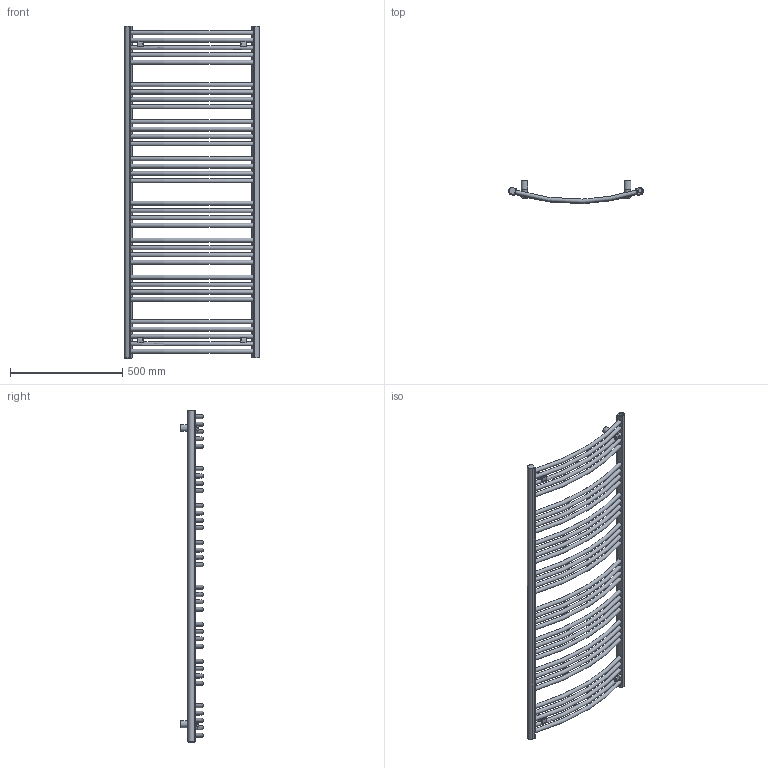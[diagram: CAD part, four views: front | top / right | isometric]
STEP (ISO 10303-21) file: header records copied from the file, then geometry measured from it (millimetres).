
FILE_DESCRIPTION((''),'2;1');
FILE_NAME('Z:\R\G\P\RGPH14 - Grzejnik Domi\Work\Inventor\Marketing\STEP\DO-14-60 SX.stp','2012-07-23T16:54:26',('PioRo'),(''),'Autodesk Inventor 2012','Autodesk Inventor 2012','');
FILE_SCHEMA(('AUTOMOTIVE_DESIGN { 1 0 10303 214 1 1 1 1 }'));
Length unit declared in the file: millimetre
Products named in the file (1): DO-14-60 SX
Bounding box: 599.97 x 101.47 x 1479 mm (x, y, z)
Volume: 7285236.1 mm3; surface area: 1389680.6 mm2
Topology: 1 solids, 5 shells, 232 faces, 551 edges, 350 vertices
Faces by surface type: cylinder 85, plane 73, torus 50, bspline 20, cone 4
Full cylindrical faces by diameter (mm): 5 x8, 9 x4, 18.631 x3, 21.8 x4, 30 x4
Entity records: 7588 total; most frequent: CARTESIAN_POINT 2073, DIRECTION 1098, ORIENTED_EDGE 956, EDGE_CURVE 478, AXIS2_PLACEMENT_3D 475, EDGE_LOOP 396, VERTEX_POINT 338, CIRCLE 238
